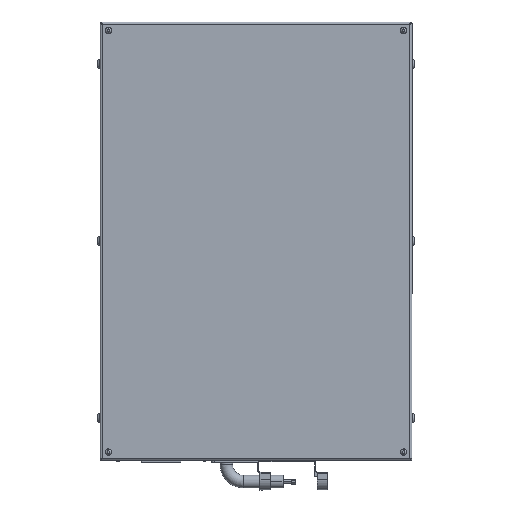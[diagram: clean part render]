
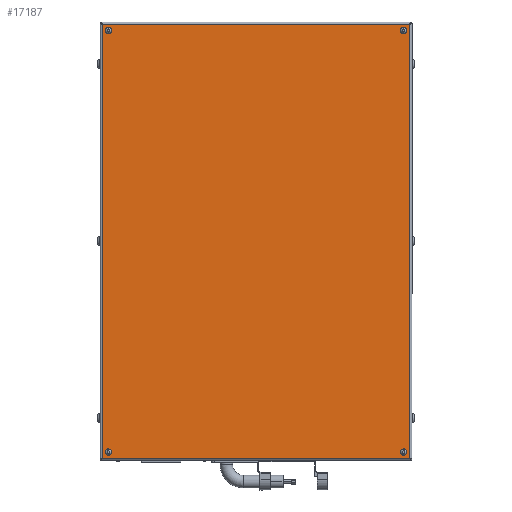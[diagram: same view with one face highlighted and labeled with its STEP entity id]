
A CAD part, front view. The second image highlights one B-rep face of the part: STEP entity #17187.
In plain terms, the highlighted planar face has unit normal (0, -1, 0).
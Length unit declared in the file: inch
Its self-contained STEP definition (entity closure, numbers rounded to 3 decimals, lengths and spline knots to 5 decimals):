
#47 = ORIENTED_EDGE ( 'NONE', *, *, #5772, .T. ) ;
#247 = CARTESIAN_POINT ( 'NONE',  ( 17.5, -13., 25.37402 ) ) ;
#390 = ORIENTED_EDGE ( 'NONE', *, *, #15704, .F. ) ;
#474 = EDGE_CURVE ( 'NONE', #14011, #12715, #941, .T. ) ;
#583 = CARTESIAN_POINT ( 'NONE',  ( -17.5, -13., 24.62598 ) ) ;
#680 = CIRCLE ( 'NONE', #14095, 0.37402 ) ;
#941 = CIRCLE ( 'NONE', #8179, 0.37402 ) ;
#1353 = FACE_BOUND ( 'NONE', #8601, .T. ) ;
#1715 = VERTEX_POINT ( 'NONE', #17565 ) ;
#1896 = CIRCLE ( 'NONE', #13939, 0.37402 ) ;
#1901 = DIRECTION ( 'NONE',  ( 0., -1., 0. ) ) ;
#2069 = CIRCLE ( 'NONE', #16842, 0.37402 ) ;
#2154 = EDGE_CURVE ( 'NONE', #1715, #15351, #18572, .T. ) ;
#2264 = CARTESIAN_POINT ( 'NONE',  ( 17.5, -13., 24.62598 ) ) ;
#2466 = LINE ( 'NONE', #3878, #15721 ) ;
#2509 = CARTESIAN_POINT ( 'NONE',  ( 18.234, -13., 25.734 ) ) ;
#3008 = ORIENTED_EDGE ( 'NONE', *, *, #18684, .F. ) ;
#3111 = DIRECTION ( 'NONE',  ( 0., 0., -1. ) ) ;
#3123 = VERTEX_POINT ( 'NONE', #247 ) ;
#3830 = DIRECTION ( 'NONE',  ( 0., 0., 1. ) ) ;
#3878 = CARTESIAN_POINT ( 'NONE',  ( -18.234, -13., -25.8 ) ) ;
#4080 = VERTEX_POINT ( 'NONE', #19397 ) ;
#4094 = CARTESIAN_POINT ( 'NONE',  ( 17.5, -13., -25. ) ) ;
#4274 = DIRECTION ( 'NONE',  ( 0., -1., 0. ) ) ;
#4345 = AXIS2_PLACEMENT_3D ( 'NONE', #13567, #9050, #5592 ) ;
#4445 = ORIENTED_EDGE ( 'NONE', *, *, #2154, .T. ) ;
#4483 = CIRCLE ( 'NONE', #16464, 0.37402 ) ;
#4877 = DIRECTION ( 'NONE',  ( 0., 0., -1. ) ) ;
#5071 = DIRECTION ( 'NONE',  ( -1., 0., 0. ) ) ;
#5559 = ORIENTED_EDGE ( 'NONE', *, *, #20400, .F. ) ;
#5592 = DIRECTION ( 'NONE',  ( 0., 0., -1. ) ) ;
#5684 = ORIENTED_EDGE ( 'NONE', *, *, #11713, .F. ) ;
#5772 = EDGE_CURVE ( 'NONE', #15351, #4080, #14777, .T. ) ;
#5987 = CARTESIAN_POINT ( 'NONE',  ( -17.5, -13., -25. ) ) ;
#6293 = EDGE_LOOP ( 'NONE', ( #20164, #390 ) ) ;
#6376 = CIRCLE ( 'NONE', #14969, 0.37402 ) ;
#6608 = FACE_BOUND ( 'NONE', #20350, .T. ) ;
#6640 = CARTESIAN_POINT ( 'NONE',  ( -18.234, -13., -25.734 ) ) ;
#7514 = ORIENTED_EDGE ( 'NONE', *, *, #19061, .T. ) ;
#7516 = EDGE_CURVE ( 'NONE', #19477, #9481, #2069, .T. ) ;
#7800 = DIRECTION ( 'NONE',  ( 0., 0., -1. ) ) ;
#7872 = CARTESIAN_POINT ( 'NONE',  ( 18.3, -13., -25.734 ) ) ;
#8179 = AXIS2_PLACEMENT_3D ( 'NONE', #14850, #1901, #3111 ) ;
#8394 = EDGE_LOOP ( 'NONE', ( #5559, #3008 ) ) ;
#8601 = EDGE_LOOP ( 'NONE', ( #18835, #14808 ) ) ;
#8723 = CARTESIAN_POINT ( 'NONE',  ( -17.5, -13., 25. ) ) ;
#8816 = DIRECTION ( 'NONE',  ( 0., -1., 0. ) ) ;
#8936 = DIRECTION ( 'NONE',  ( 0., 0., -1. ) ) ;
#9050 = DIRECTION ( 'NONE',  ( 0., -1., 0. ) ) ;
#9374 = LINE ( 'NONE', #7872, #17071 ) ;
#9481 = VERTEX_POINT ( 'NONE', #14160 ) ;
#9717 = PLANE ( 'NONE',  #14110 ) ;
#10123 = CIRCLE ( 'NONE', #4345, 0.37402 ) ;
#10347 = DIRECTION ( 'NONE',  ( 0., 0., -1. ) ) ;
#10419 = ORIENTED_EDGE ( 'NONE', *, *, #13016, .T. ) ;
#11257 = DIRECTION ( 'NONE',  ( 0., -1., 0. ) ) ;
#11713 = EDGE_CURVE ( 'NONE', #9481, #19477, #6376, .T. ) ;
#11897 = CARTESIAN_POINT ( 'NONE',  ( -17.5, -13., -24.62598 ) ) ;
#12084 = DIRECTION ( 'NONE',  ( 0., 0., -1. ) ) ;
#12164 = DIRECTION ( 'NONE',  ( 0., -1., 0. ) ) ;
#12659 = VERTEX_POINT ( 'NONE', #2264 ) ;
#12715 = VERTEX_POINT ( 'NONE', #583 ) ;
#12934 = CIRCLE ( 'NONE', #15672, 0.37402 ) ;
#12990 = CARTESIAN_POINT ( 'NONE',  ( 0., -13., 0. ) ) ;
#13016 = EDGE_CURVE ( 'NONE', #4080, #13316, #2466, .T. ) ;
#13041 = DIRECTION ( 'NONE',  ( 0., -1., 0. ) ) ;
#13243 = CARTESIAN_POINT ( 'NONE',  ( -18.3, -13., 25.734 ) ) ;
#13316 = VERTEX_POINT ( 'NONE', #6640 ) ;
#13567 = CARTESIAN_POINT ( 'NONE',  ( 17.5, -13., 25. ) ) ;
#13825 = CARTESIAN_POINT ( 'NONE',  ( 17.5, -13., -25. ) ) ;
#13873 = VERTEX_POINT ( 'NONE', #14637 ) ;
#13939 = AXIS2_PLACEMENT_3D ( 'NONE', #13825, #15750, #10347 ) ;
#14011 = VERTEX_POINT ( 'NONE', #20652 ) ;
#14095 = AXIS2_PLACEMENT_3D ( 'NONE', #19145, #12164, #17290 ) ;
#14110 = AXIS2_PLACEMENT_3D ( 'NONE', #12990, #11257, #7800 ) ;
#14160 = CARTESIAN_POINT ( 'NONE',  ( -17.5, -13., -25.37402 ) ) ;
#14201 = DIRECTION ( 'NONE',  ( 0., 0., -1. ) ) ;
#14478 = EDGE_LOOP ( 'NONE', ( #4445, #47, #10419, #7514 ) ) ;
#14637 = CARTESIAN_POINT ( 'NONE',  ( 17.5, -13., -24.62598 ) ) ;
#14681 = VECTOR ( 'NONE', #3830, 39.37008 ) ;
#14777 = LINE ( 'NONE', #13243, #21005 ) ;
#14808 = ORIENTED_EDGE ( 'NONE', *, *, #14871, .F. ) ;
#14850 = CARTESIAN_POINT ( 'NONE',  ( -17.5, -13., 25. ) ) ;
#14871 = EDGE_CURVE ( 'NONE', #12659, #3123, #680, .T. ) ;
#14969 = AXIS2_PLACEMENT_3D ( 'NONE', #21240, #13041, #4877 ) ;
#15193 = VERTEX_POINT ( 'NONE', #19565 ) ;
#15217 = ORIENTED_EDGE ( 'NONE', *, *, #7516, .F. ) ;
#15351 = VERTEX_POINT ( 'NONE', #2509 ) ;
#15672 = AXIS2_PLACEMENT_3D ( 'NONE', #8723, #20265, #12084 ) ;
#15684 = EDGE_CURVE ( 'NONE', #3123, #12659, #10123, .T. ) ;
#15704 = EDGE_CURVE ( 'NONE', #12715, #14011, #12934, .T. ) ;
#15721 = VECTOR ( 'NONE', #14201, 39.37008 ) ;
#15742 = DIRECTION ( 'NONE',  ( 1., 0., 0. ) ) ;
#15750 = DIRECTION ( 'NONE',  ( 0., -1., 0. ) ) ;
#16206 = FACE_OUTER_BOUND ( 'NONE', #14478, .T. ) ;
#16464 = AXIS2_PLACEMENT_3D ( 'NONE', #4094, #8816, #8936 ) ;
#16842 = AXIS2_PLACEMENT_3D ( 'NONE', #5987, #4274, #17489 ) ;
#17071 = VECTOR ( 'NONE', #15742, 39.37008 ) ;
#17187 = ADVANCED_FACE ( 'NONE', ( #1353, #17830, #21077, #6608, #16206 ), #9717, .T. ) ;
#17290 = DIRECTION ( 'NONE',  ( 0., 0., -1. ) ) ;
#17489 = DIRECTION ( 'NONE',  ( 0., 0., -1. ) ) ;
#17565 = CARTESIAN_POINT ( 'NONE',  ( 18.234, -13., -25.734 ) ) ;
#17830 = FACE_BOUND ( 'NONE', #6293, .T. ) ;
#18465 = CARTESIAN_POINT ( 'NONE',  ( 18.234, -13., 25.8 ) ) ;
#18572 = LINE ( 'NONE', #18465, #14681 ) ;
#18684 = EDGE_CURVE ( 'NONE', #15193, #13873, #4483, .T. ) ;
#18835 = ORIENTED_EDGE ( 'NONE', *, *, #15684, .F. ) ;
#19061 = EDGE_CURVE ( 'NONE', #13316, #1715, #9374, .T. ) ;
#19145 = CARTESIAN_POINT ( 'NONE',  ( 17.5, -13., 25. ) ) ;
#19397 = CARTESIAN_POINT ( 'NONE',  ( -18.234, -13., 25.734 ) ) ;
#19477 = VERTEX_POINT ( 'NONE', #11897 ) ;
#19565 = CARTESIAN_POINT ( 'NONE',  ( 17.5, -13., -25.37402 ) ) ;
#20164 = ORIENTED_EDGE ( 'NONE', *, *, #474, .F. ) ;
#20265 = DIRECTION ( 'NONE',  ( 0., -1., 0. ) ) ;
#20350 = EDGE_LOOP ( 'NONE', ( #15217, #5684 ) ) ;
#20400 = EDGE_CURVE ( 'NONE', #13873, #15193, #1896, .T. ) ;
#20652 = CARTESIAN_POINT ( 'NONE',  ( -17.5, -13., 25.37402 ) ) ;
#21005 = VECTOR ( 'NONE', #5071, 39.37008 ) ;
#21077 = FACE_BOUND ( 'NONE', #8394, .T. ) ;
#21240 = CARTESIAN_POINT ( 'NONE',  ( -17.5, -13., -25. ) ) ;
